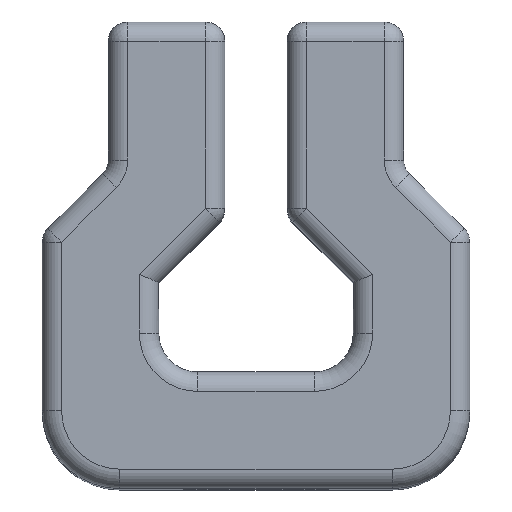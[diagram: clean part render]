
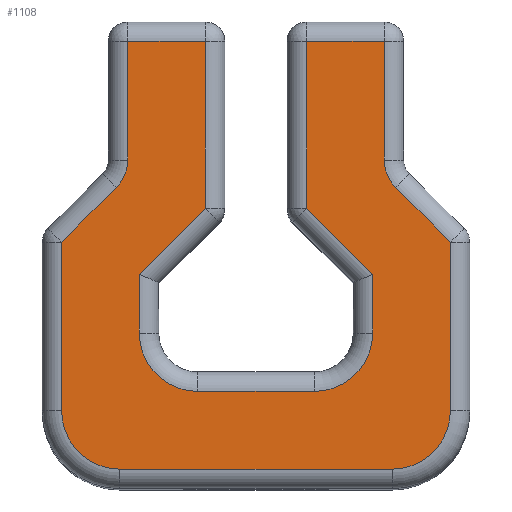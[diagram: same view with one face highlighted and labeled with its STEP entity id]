
A CAD part, top view. The second image highlights one B-rep face of the part: STEP entity #1108.
In plain terms, the highlighted planar face has unit normal (0, 0, 1).
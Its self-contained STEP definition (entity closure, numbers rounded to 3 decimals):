
#81=PLANE('',#1272);
#147=FACE_OUTER_BOUND('',#221,.T.);
#221=EDGE_LOOP('',(#992,#993,#994,#995,#996,#997,#998,#999,#1000,#1001,
#1002,#1003,#1004,#1005,#1006,#1007,#1008,#1009,#1010,#1011,#1012,#1013));
#246=LINE('',#1743,#330);
#252=LINE('',#1772,#336);
#257=LINE('',#1791,#341);
#261=LINE('',#1815,#345);
#266=LINE('',#1844,#350);
#270=LINE('',#1860,#354);
#272=LINE('',#1863,#356);
#274=LINE('',#1866,#358);
#276=LINE('',#1878,#360);
#278=LINE('',#1887,#362);
#280=LINE('',#1890,#364);
#282=LINE('',#1896,#366);
#284=LINE('',#1906,#368);
#285=LINE('',#1914,#369);
#287=LINE('',#1917,#371);
#289=LINE('',#1920,#373);
#330=VECTOR('',#1377,10.);
#336=VECTOR('',#1409,10.);
#341=VECTOR('',#1428,10.);
#345=VECTOR('',#1452,10.);
#350=VECTOR('',#1485,10.);
#354=VECTOR('',#1503,10.);
#356=VECTOR('',#1507,10.);
#358=VECTOR('',#1511,10.);
#360=VECTOR('',#1525,10.);
#362=VECTOR('',#1537,10.);
#364=VECTOR('',#1541,10.);
#366=VECTOR('',#1547,10.);
#368=VECTOR('',#1561,10.);
#369=VECTOR('',#1572,10.);
#371=VECTOR('',#1576,10.);
#373=VECTOR('',#1580,10.);
#417=CIRCLE('',#1166,2.);
#438=CIRCLE('',#1201,2.);
#454=CIRCLE('',#1231,3.);
#458=CIRCLE('',#1237,3.);
#462=CIRCLE('',#1245,3.);
#466=CIRCLE('',#1251,3.);
#489=VERTEX_POINT('',#1703);
#494=VERTEX_POINT('',#1716);
#496=VERTEX_POINT('',#1720);
#500=VERTEX_POINT('',#1731);
#505=VERTEX_POINT('',#1747);
#510=VERTEX_POINT('',#1760);
#515=VERTEX_POINT('',#1776);
#520=VERTEX_POINT('',#1790);
#522=VERTEX_POINT('',#1795);
#524=VERTEX_POINT('',#1799);
#529=VERTEX_POINT('',#1812);
#530=VERTEX_POINT('',#1814);
#532=VERTEX_POINT('',#1819);
#537=VERTEX_POINT('',#1832);
#542=VERTEX_POINT('',#1848);
#547=VERTEX_POINT('',#1870);
#549=VERTEX_POINT('',#1876);
#551=VERTEX_POINT('',#1882);
#553=VERTEX_POINT('',#1894);
#554=VERTEX_POINT('',#1899);
#555=VERTEX_POINT('',#1904);
#557=VERTEX_POINT('',#1909);
#597=EDGE_CURVE('',#496,#494,#417,.T.);
#607=EDGE_CURVE('',#489,#500,#246,.T.);
#621=EDGE_CURVE('',#500,#510,#252,.T.);
#630=EDGE_CURVE('',#510,#520,#257,.T.);
#635=EDGE_CURVE('',#524,#522,#438,.T.);
#641=EDGE_CURVE('',#529,#530,#261,.T.);
#655=EDGE_CURVE('',#530,#537,#266,.T.);
#663=EDGE_CURVE('',#537,#542,#270,.T.);
#665=EDGE_CURVE('',#542,#532,#272,.T.);
#667=EDGE_CURVE('',#532,#524,#274,.T.);
#670=EDGE_CURVE('',#547,#529,#454,.T.);
#673=EDGE_CURVE('',#549,#547,#276,.T.);
#676=EDGE_CURVE('',#551,#549,#458,.T.);
#678=EDGE_CURVE('',#520,#551,#278,.T.);
#680=EDGE_CURVE('',#522,#515,#280,.T.);
#683=EDGE_CURVE('',#553,#505,#282,.T.);
#686=EDGE_CURVE('',#554,#553,#462,.T.);
#689=EDGE_CURVE('',#555,#554,#284,.T.);
#691=EDGE_CURVE('',#557,#555,#466,.T.);
#693=EDGE_CURVE('',#515,#557,#285,.T.);
#695=EDGE_CURVE('',#505,#496,#287,.T.);
#697=EDGE_CURVE('',#494,#489,#289,.T.);
#992=ORIENTED_EDGE('',*,*,#683,.F.);
#993=ORIENTED_EDGE('',*,*,#686,.F.);
#994=ORIENTED_EDGE('',*,*,#689,.F.);
#995=ORIENTED_EDGE('',*,*,#691,.F.);
#996=ORIENTED_EDGE('',*,*,#693,.F.);
#997=ORIENTED_EDGE('',*,*,#680,.F.);
#998=ORIENTED_EDGE('',*,*,#635,.F.);
#999=ORIENTED_EDGE('',*,*,#667,.F.);
#1000=ORIENTED_EDGE('',*,*,#665,.F.);
#1001=ORIENTED_EDGE('',*,*,#663,.F.);
#1002=ORIENTED_EDGE('',*,*,#655,.F.);
#1003=ORIENTED_EDGE('',*,*,#641,.F.);
#1004=ORIENTED_EDGE('',*,*,#670,.F.);
#1005=ORIENTED_EDGE('',*,*,#673,.F.);
#1006=ORIENTED_EDGE('',*,*,#676,.F.);
#1007=ORIENTED_EDGE('',*,*,#678,.F.);
#1008=ORIENTED_EDGE('',*,*,#630,.F.);
#1009=ORIENTED_EDGE('',*,*,#621,.F.);
#1010=ORIENTED_EDGE('',*,*,#607,.F.);
#1011=ORIENTED_EDGE('',*,*,#697,.F.);
#1012=ORIENTED_EDGE('',*,*,#597,.F.);
#1013=ORIENTED_EDGE('',*,*,#695,.F.);
#1108=ADVANCED_FACE('',(#147),#81,.T.);
#1166=AXIS2_PLACEMENT_3D('',#1722,#1353,#1354);
#1201=AXIS2_PLACEMENT_3D('',#1801,#1439,#1440);
#1231=AXIS2_PLACEMENT_3D('',#1872,#1517,#1518);
#1237=AXIS2_PLACEMENT_3D('',#1884,#1531,#1532);
#1245=AXIS2_PLACEMENT_3D('',#1901,#1553,#1554);
#1251=AXIS2_PLACEMENT_3D('',#1911,#1566,#1567);
#1272=AXIS2_PLACEMENT_3D('',#1967,#1635,#1636);
#1353=DIRECTION('center_axis',(0.,0.,1.));
#1354=DIRECTION('ref_axis',(0.924,-0.383,0.));
#1377=DIRECTION('',(1.,0.,0.));
#1409=DIRECTION('',(0.,-1.,0.));
#1428=DIRECTION('',(-0.707,-0.707,0.));
#1439=DIRECTION('center_axis',(0.,0.,1.));
#1440=DIRECTION('ref_axis',(-0.924,-0.383,0.));
#1452=DIRECTION('',(0.,1.,0.));
#1485=DIRECTION('',(-0.707,0.707,0.));
#1503=DIRECTION('',(0.,1.,0.));
#1507=DIRECTION('',(1.,0.,0.));
#1511=DIRECTION('',(0.,-1.,0.));
#1517=DIRECTION('center_axis',(0.,0.,1.));
#1518=DIRECTION('ref_axis',(0.707,-0.707,0.));
#1525=DIRECTION('',(1.,0.,0.));
#1531=DIRECTION('center_axis',(0.,0.,1.));
#1532=DIRECTION('ref_axis',(-0.707,-0.707,0.));
#1537=DIRECTION('',(0.,-1.,0.));
#1541=DIRECTION('',(0.707,-0.707,0.));
#1547=DIRECTION('',(0.,1.,0.));
#1553=DIRECTION('center_axis',(0.,0.,-1.));
#1554=DIRECTION('ref_axis',(-0.707,-0.707,0.));
#1561=DIRECTION('',(-1.,0.,0.));
#1566=DIRECTION('center_axis',(0.,0.,-1.));
#1567=DIRECTION('ref_axis',(0.707,-0.707,0.));
#1572=DIRECTION('',(0.,-1.,0.));
#1576=DIRECTION('',(0.707,0.707,0.));
#1580=DIRECTION('',(0.,1.,0.));
#1635=DIRECTION('center_axis',(0.,0.,1.));
#1636=DIRECTION('ref_axis',(1.,0.,0.));
#1703=CARTESIAN_POINT('',(4.4,23.,42.));
#1716=CARTESIAN_POINT('',(4.4,16.899,42.));
#1720=CARTESIAN_POINT('',(3.814,15.485,42.));
#1722=CARTESIAN_POINT('Origin',(2.4,16.899,42.));
#1731=CARTESIAN_POINT('',(8.4,23.,42.));
#1743=CARTESIAN_POINT('',(10.2,23.,42.));
#1747=CARTESIAN_POINT('',(1.,12.671,42.));
#1760=CARTESIAN_POINT('',(8.4,14.414,42.));
#1772=CARTESIAN_POINT('',(8.4,12.763,42.));
#1776=CARTESIAN_POINT('',(21.,12.671,42.));
#1790=CARTESIAN_POINT('',(5.,11.014,42.));
#1791=CARTESIAN_POINT('',(6.774,12.789,42.));
#1795=CARTESIAN_POINT('',(18.186,15.485,42.));
#1799=CARTESIAN_POINT('',(17.6,16.899,42.));
#1801=CARTESIAN_POINT('Origin',(19.6,16.899,42.));
#1812=CARTESIAN_POINT('',(17.,8.,42.));
#1814=CARTESIAN_POINT('',(17.,11.014,42.));
#1815=CARTESIAN_POINT('',(17.,11.063,42.));
#1819=CARTESIAN_POINT('',(17.6,23.,42.));
#1832=CARTESIAN_POINT('',(13.6,14.414,42.));
#1844=CARTESIAN_POINT('',(13.526,14.489,42.));
#1848=CARTESIAN_POINT('',(13.6,23.,42.));
#1860=CARTESIAN_POINT('',(13.6,17.763,42.));
#1863=CARTESIAN_POINT('',(14.8,23.,42.));
#1866=CARTESIAN_POINT('',(17.6,14.006,42.));
#1870=CARTESIAN_POINT('',(14.,5.,42.));
#1872=CARTESIAN_POINT('Origin',(14.,8.,42.));
#1876=CARTESIAN_POINT('',(8.,5.,42.));
#1878=CARTESIAN_POINT('',(13.5,5.,42.));
#1882=CARTESIAN_POINT('',(5.,8.,42.));
#1884=CARTESIAN_POINT('Origin',(8.,8.,42.));
#1887=CARTESIAN_POINT('',(5.,8.763,42.));
#1890=CARTESIAN_POINT('',(18.933,14.738,42.));
#1894=CARTESIAN_POINT('',(1.,4.,42.));
#1896=CARTESIAN_POINT('',(1.,12.306,42.));
#1899=CARTESIAN_POINT('',(4.,1.,42.));
#1901=CARTESIAN_POINT('Origin',(4.,4.,42.));
#1904=CARTESIAN_POINT('',(18.,1.,42.));
#1906=CARTESIAN_POINT('',(5.5,1.,42.));
#1909=CARTESIAN_POINT('',(21.,4.,42.));
#1911=CARTESIAN_POINT('Origin',(18.,4.,42.));
#1914=CARTESIAN_POINT('',(21.,5.763,42.));
#1917=CARTESIAN_POINT('',(4.767,16.438,42.));
#1920=CARTESIAN_POINT('',(4.4,17.763,42.));
#1967=CARTESIAN_POINT('Origin',(11.,11.526,42.));
